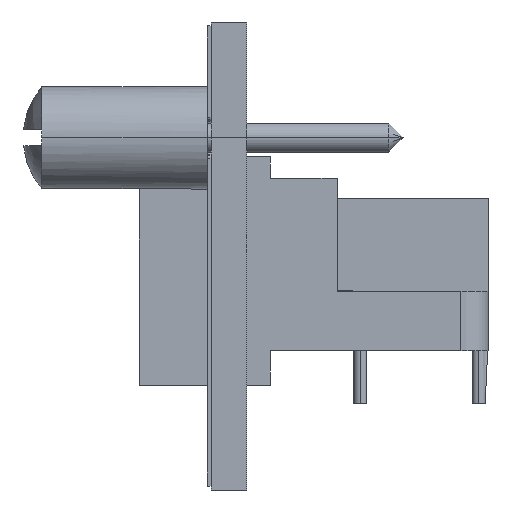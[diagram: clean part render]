
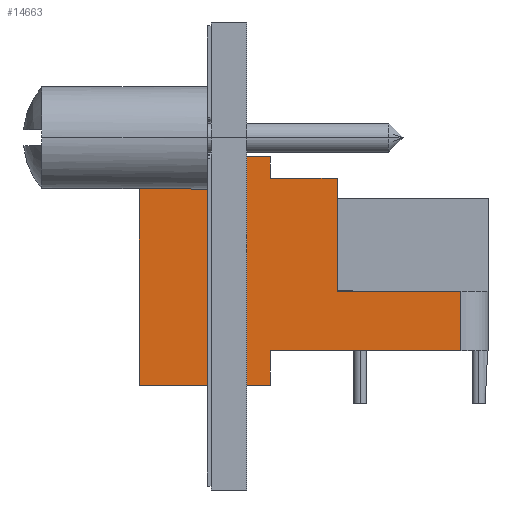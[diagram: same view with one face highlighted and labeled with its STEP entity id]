
A CAD part, front view. The second image highlights one B-rep face of the part: STEP entity #14663.
In plain terms, the highlighted planar face has unit normal (0, -1, 0).
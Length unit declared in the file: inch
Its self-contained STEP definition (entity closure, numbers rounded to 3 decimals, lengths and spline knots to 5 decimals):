
#2949=DIRECTION('',(0.,0.,1.));
#2950=VECTOR('',#2949,0.57992);
#2951=CARTESIAN_POINT('',(-0.33299,0.44,-0.0252));
#2952=LINE('',#2951,#2950);
#3065=DIRECTION('',(0.,0.,1.));
#3066=VECTOR('',#3065,0.0882);
#3067=CARTESIAN_POINT('',(0.,0.44,-0.0252));
#3068=LINE('',#3067,#3066);
#3132=DIRECTION('',(-1.,0.,0.));
#3133=VECTOR('',#3132,0.484);
#3134=CARTESIAN_POINT('',(0.484,0.44,0.063));
#3135=LINE('',#3134,#3133);
#3248=DIRECTION('',(-1.,0.,0.));
#3249=VECTOR('',#3248,0.33299);
#3250=CARTESIAN_POINT('',(0.,0.44,-0.0252));
#3251=LINE('',#3250,#3249);
#3252=DIRECTION('',(-1.,0.,0.));
#3253=VECTOR('',#3252,0.17);
#3254=CARTESIAN_POINT('',(0.17,0.44,0.5));
#3255=LINE('',#3254,#3253);
#3256=DIRECTION('',(0.,0.,1.));
#3257=VECTOR('',#3256,0.287);
#3258=CARTESIAN_POINT('',(0.17,0.44,0.213));
#3259=LINE('',#3258,#3257);
#3260=DIRECTION('',(-1.,0.,0.));
#3261=VECTOR('',#3260,0.314);
#3262=CARTESIAN_POINT('',(0.484,0.44,0.213));
#3263=LINE('',#3262,#3261);
#3264=DIRECTION('',(0.,0.,1.));
#3265=VECTOR('',#3264,0.15);
#3266=CARTESIAN_POINT('',(0.484,0.44,0.063));
#3267=LINE('',#3266,#3265);
#3268=DIRECTION('',(-1.,0.,0.));
#3269=VECTOR('',#3268,0.33299);
#3270=CARTESIAN_POINT('',(0.,0.44,0.55472));
#3271=LINE('',#3270,#3269);
#3272=DIRECTION('',(0.,0.,1.));
#3273=VECTOR('',#3272,0.05472);
#3274=CARTESIAN_POINT('',(0.,0.44,0.5));
#3275=LINE('',#3274,#3273);
#9416=CARTESIAN_POINT('',(0.484,0.44,0.063));
#9418=VERTEX_POINT('',#9416);
#9447=CARTESIAN_POINT('',(0.484,0.44,0.213));
#9448=CARTESIAN_POINT('',(0.17,0.44,0.213));
#9449=VERTEX_POINT('',#9447);
#9450=VERTEX_POINT('',#9448);
#9451=CARTESIAN_POINT('',(0.17,0.44,0.5));
#9452=VERTEX_POINT('',#9451);
#9547=CARTESIAN_POINT('',(0.,0.44,0.55472));
#9549=VERTEX_POINT('',#9547);
#9552=CARTESIAN_POINT('',(-0.33299,0.44,-0.0252));
#9554=VERTEX_POINT('',#9552);
#9555=CARTESIAN_POINT('',(-0.33299,0.44,0.55472));
#9556=VERTEX_POINT('',#9555);
#9561=CARTESIAN_POINT('',(0.,0.44,-0.0252));
#9562=VERTEX_POINT('',#9561);
#9563=CARTESIAN_POINT('',(0.,0.44,0.5));
#9565=VERTEX_POINT('',#9563);
#9567=CARTESIAN_POINT('',(0.,0.44,0.063));
#9568=VERTEX_POINT('',#9567);
#14642=CARTESIAN_POINT('',(0.242,0.44,0.2815));
#14643=DIRECTION('',(0.,-1.,0.));
#14644=DIRECTION('',(0.,0.,-1.));
#14645=AXIS2_PLACEMENT_3D('',#14642,#14643,#14644);
#14646=PLANE('',#14645);
#14647=ORIENTED_EDGE('',*,*,#14520,.T.);
#14648=ORIENTED_EDGE('',*,*,#14487,.F.);
#14649=ORIENTED_EDGE('',*,*,#14472,.T.);
#14650=ORIENTED_EDGE('',*,*,#14404,.T.);
#14652=ORIENTED_EDGE('',*,*,#14651,.F.);
#14654=ORIENTED_EDGE('',*,*,#14653,.F.);
#14656=ORIENTED_EDGE('',*,*,#14655,.F.);
#14658=ORIENTED_EDGE('',*,*,#14657,.F.);
#14659=ORIENTED_EDGE('',*,*,#14613,.F.);
#14660=ORIENTED_EDGE('',*,*,#14636,.F.);
#14661=EDGE_LOOP('',(#14647,#14648,#14649,#14650,#14652,#14654,#14656,#14658,
#14659,#14660));
#14662=FACE_OUTER_BOUND('',#14661,.F.);
#14663=ADVANCED_FACE('',(#14662),#14646,.T.);
#14404=EDGE_CURVE('',#9554,#9556,#2952,.T.);
#14472=EDGE_CURVE('',#9562,#9554,#3251,.T.);
#14487=EDGE_CURVE('',#9562,#9568,#3068,.T.);
#14520=EDGE_CURVE('',#9418,#9568,#3135,.T.);
#14613=EDGE_CURVE('',#9449,#9450,#3263,.T.);
#14636=EDGE_CURVE('',#9418,#9449,#3267,.T.);
#14651=EDGE_CURVE('',#9549,#9556,#3271,.T.);
#14653=EDGE_CURVE('',#9565,#9549,#3275,.T.);
#14655=EDGE_CURVE('',#9452,#9565,#3255,.T.);
#14657=EDGE_CURVE('',#9450,#9452,#3259,.T.);
